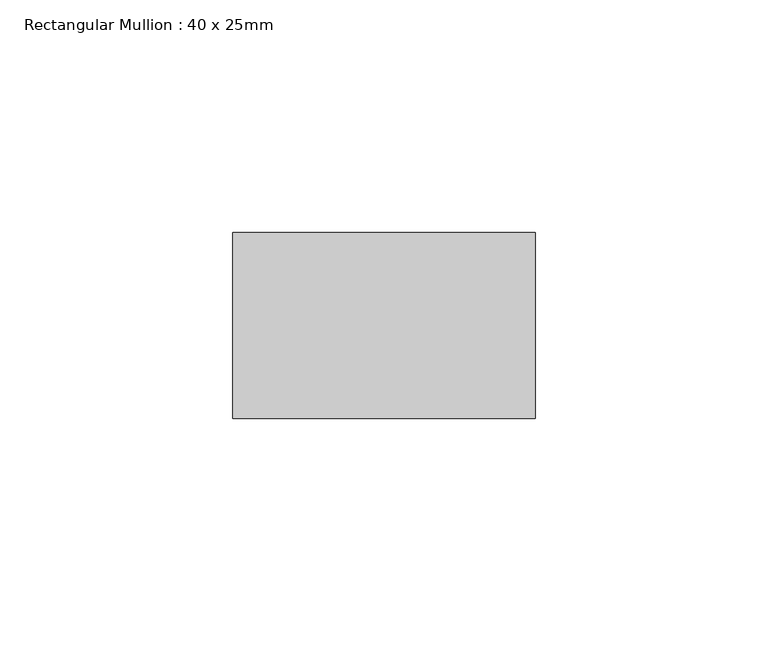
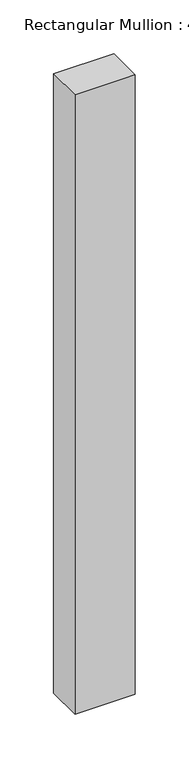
"""IFC4 building model written with IfcOpenShell, lengths in millimetres: member geometry, Rectangular Mullion : 40 x 25mm."""

from ifc_helpers import new_model, si_unit, frame, origin, place, context, project, spatial, polyline, outline, extrude, source, transform, mapped, element, save


def rectangular_mullion_40_x_25mm_72e341b1(model_context):
    return source(origin(), model_context, "Body", "SweptSolid", [
        extrude(outline(polyline([(0.0, -20.0), (0.0, -60.0), (-65.0, -60.0), (-65.0, -20.0), (0.0, -20.0)])), frame((0.0, 0.0, -705.0), z_axis=(0.0, 0.0, 1.0), x_axis=(1.0, 0.0, 0.0)), (0.0, 0.0, 1.0), 705.0),
    ])


if __name__ == "__main__":
    model = new_model("IFC4")
    model_context = context("Model", 3, world=origin())
    ifc_project = project(units=[si_unit("LENGTHUNIT", "METRE", prefix="MILLI")], contexts=[model_context])
    site = spatial("IfcSite", under=ifc_project)
    building = spatial("IfcBuilding", under=site)
    placement = place(None, origin())
    rectangular_mullion_40_x_25mm_shape = rectangular_mullion_40_x_25mm_72e341b1(model_context)
    element("IfcMember", 1, ObjectType="Rectangular Mullion : 40 x 25mm", at=placement, inside=building, context=model_context, shape_type="MappedRepresentation", body=[
        mapped(rectangular_mullion_40_x_25mm_shape, transform((0.0, 0.0, 0.0), x_axis=(1.0, 0.0, 0.0), y_axis=(0.0, 1.0, 0.0), z_axis=(0.0, 0.0, 1.0))),
    ])
    save(model, "model.ifc")
